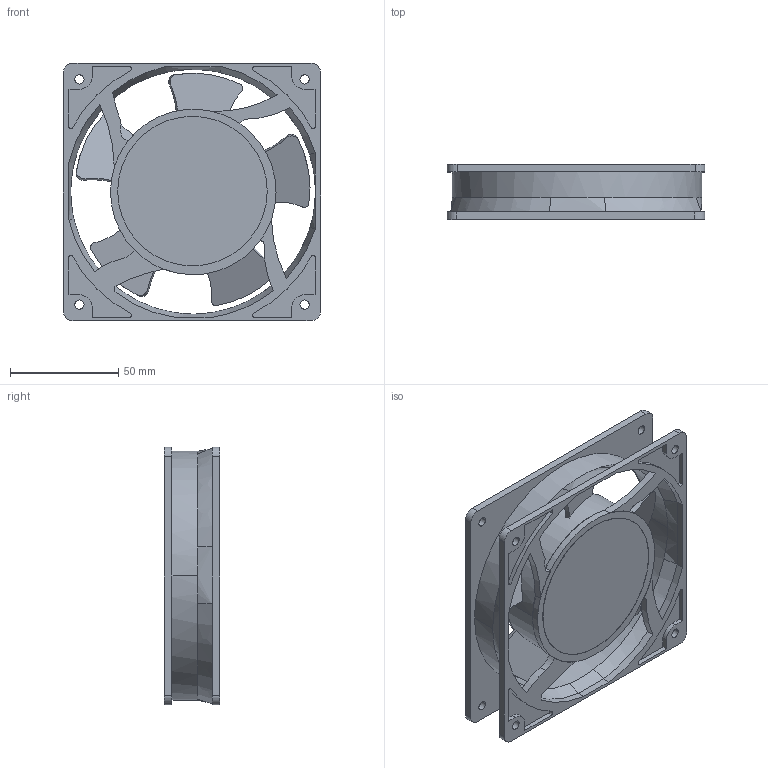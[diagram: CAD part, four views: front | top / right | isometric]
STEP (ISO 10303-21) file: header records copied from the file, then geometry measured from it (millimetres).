
FILE_DESCRIPTION((''),'2;1');
FILE_NAME('2034','2008-11-30T',('carefree'),(''),'PRO/ENGINEER BY PARAMETRIC TECHNOLOGY CORPORATION, 2002100','PRO/ENGINEER BY PARAMETRIC TECHNOLOGY CORPORATION, 2002100','');
FILE_SCHEMA(('CONFIG_CONTROL_DESIGN'));
Length unit declared in the file: millimetre
Products named in the file (1): 2034
Bounding box: 119 x 25.5 x 119 mm (x, y, z)
Surface area: 57250.9 mm2
Topology: 7 solids, 8 shells, 360 faces, 984 edges, 648 vertices
Faces by surface type: cylinder 119, extrusion 112, plane 109, bspline 16, torus 4
Entity records: 12395 total; most frequent: CARTESIAN_POINT 3444, ORIENTED_EDGE 1962, DIRECTION 1594, EDGE_CURVE 984, VERTEX_POINT 648, VECTOR 572, AXIS2_PLACEMENT_3D 511, LINE 460
